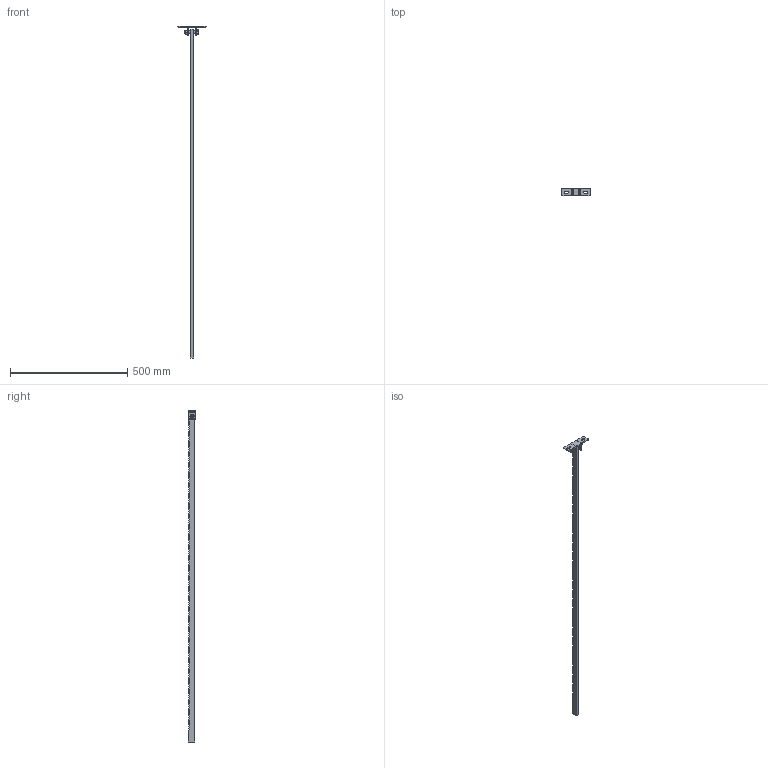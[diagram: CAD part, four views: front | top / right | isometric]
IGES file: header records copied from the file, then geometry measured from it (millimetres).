
Global section: file name: 61515_1297_1265; native system: Autodesk Inventor 2022; preprocessor: unknown; author: Nesvadba; date: 20240224.154626; units: millimetre
Bounding box: 120 x 32 x 1413 mm (x, y, z)
Volume: 551771.7 mm3; surface area: 147195.3 mm2
Topology: 4 solids, 4 shells, 951 faces, 2813 edges, 1870 vertices
Faces by surface type: bspline 951
